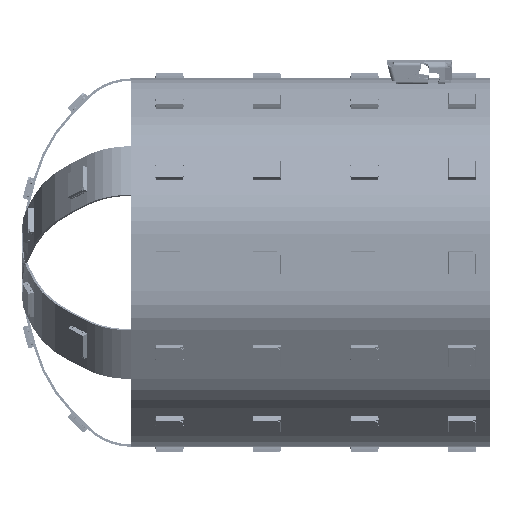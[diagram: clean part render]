
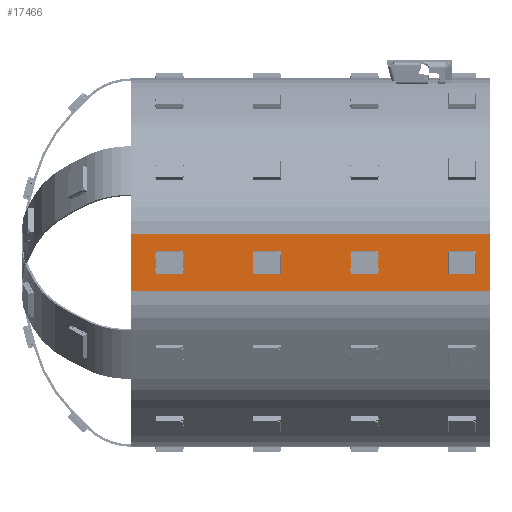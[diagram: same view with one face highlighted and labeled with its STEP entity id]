
A CAD part, left-side view. The second image highlights one B-rep face of the part: STEP entity #17466.
In plain terms, the highlighted planar face has unit normal (-1, 0, 0).
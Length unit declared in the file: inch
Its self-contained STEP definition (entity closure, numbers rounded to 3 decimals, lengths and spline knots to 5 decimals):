
#65 = ORIENTED_EDGE ( 'NONE', *, *, #44306, .F. ) ;
#452 = EDGE_CURVE ( 'NONE', #34886, #3012, #30286, .T. ) ;
#1897 = CARTESIAN_POINT ( 'NONE',  ( -0.897, 3., 0.1375 ) ) ;
#3012 = VERTEX_POINT ( 'NONE', #29323 ) ;
#3822 = EDGE_CURVE ( 'NONE', #35646, #42087, #8475, .T. ) ;
#4846 = PLANE ( 'NONE',  #14380 ) ;
#8475 = LINE ( 'NONE', #22513, #31775 ) ;
#11483 = EDGE_CURVE ( 'NONE', #34886, #35646, #45781, .T. ) ;
#11797 = CARTESIAN_POINT ( 'NONE',  ( -0.897, 4.75, 0.1375 ) ) ;
#11963 = ORIENTED_EDGE ( 'NONE', *, *, #452, .F. ) ;
#12236 = CARTESIAN_POINT ( 'NONE',  ( -0.897, 4.75, 0.1375 ) ) ;
#13362 = DIRECTION ( 'NONE',  ( 0., -1., 0. ) ) ;
#14380 = AXIS2_PLACEMENT_3D ( 'NONE', #33801, #41565, #26704 ) ;
#17466 = ADVANCED_FACE ( 'NONE', ( #37340 ), #4846, .F. ) ;
#18488 = ORIENTED_EDGE ( 'NONE', *, *, #3822, .T. ) ;
#18830 = VECTOR ( 'NONE', #44473, 39.37008 ) ;
#19528 = VECTOR ( 'NONE', #13362, 39.37008 ) ;
#20277 = VECTOR ( 'NONE', #34063, 39.37008 ) ;
#20293 = CARTESIAN_POINT ( 'NONE',  ( -0.897, 4.75, -0.1375 ) ) ;
#22513 = CARTESIAN_POINT ( 'NONE',  ( -0.897, 3., 0.1375 ) ) ;
#26704 = DIRECTION ( 'NONE',  ( 0., 0., -1. ) ) ;
#29323 = CARTESIAN_POINT ( 'NONE',  ( -0.897, 4.75, 0.1375 ) ) ;
#30286 = LINE ( 'NONE', #12236, #20277 ) ;
#31775 = VECTOR ( 'NONE', #41182, 39.37008 ) ;
#33801 = CARTESIAN_POINT ( 'NONE',  ( -0.897, 4.75, 0.1375 ) ) ;
#34063 = DIRECTION ( 'NONE',  ( 0., 0., 1. ) ) ;
#34886 = VERTEX_POINT ( 'NONE', #39556 ) ;
#35190 = ORIENTED_EDGE ( 'NONE', *, *, #11483, .T. ) ;
#35303 = EDGE_LOOP ( 'NONE', ( #35190, #18488, #65, #11963 ) ) ;
#35646 = VERTEX_POINT ( 'NONE', #36334 ) ;
#36334 = CARTESIAN_POINT ( 'NONE',  ( -0.897, 3., -0.1375 ) ) ;
#37340 = FACE_OUTER_BOUND ( 'NONE', #35303, .T. ) ;
#37868 = LINE ( 'NONE', #11797, #18830 ) ;
#39556 = CARTESIAN_POINT ( 'NONE',  ( -0.897, 4.75, -0.1375 ) ) ;
#41182 = DIRECTION ( 'NONE',  ( 0., 0., 1. ) ) ;
#41565 = DIRECTION ( 'NONE',  ( 1., 0., 0. ) ) ;
#42087 = VERTEX_POINT ( 'NONE', #1897 ) ;
#44306 = EDGE_CURVE ( 'NONE', #3012, #42087, #37868, .T. ) ;
#44473 = DIRECTION ( 'NONE',  ( 0., -1., 0. ) ) ;
#45781 = LINE ( 'NONE', #20293, #19528 ) ;
